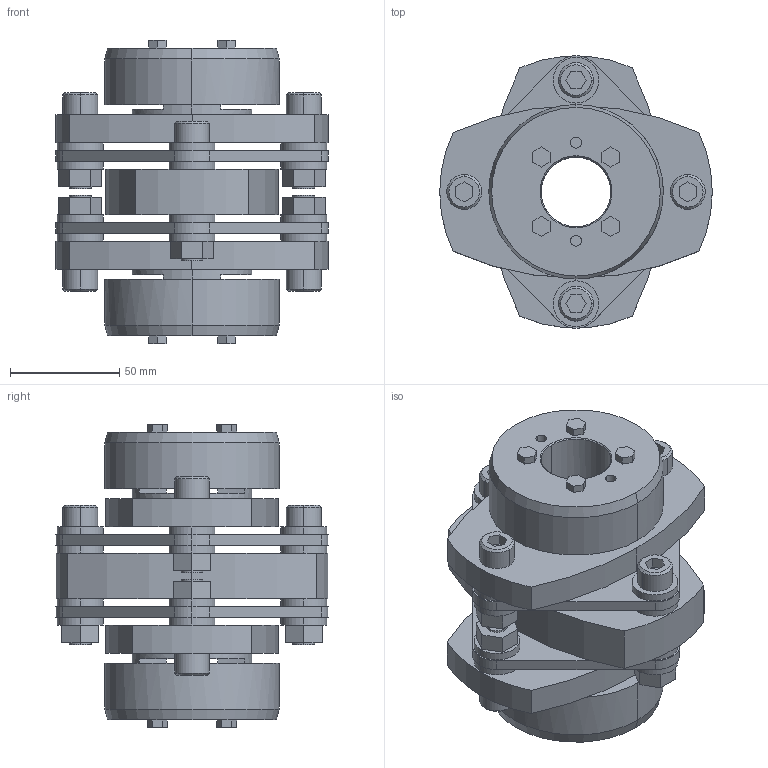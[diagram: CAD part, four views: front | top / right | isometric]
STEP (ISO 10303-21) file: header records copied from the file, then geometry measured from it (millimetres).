
FILE_DESCRIPTION((''),'2;1');
FILE_NAME('LCD-125T7-32×32.stp','2011-09-07T10:07:35',(''),(''),'AutoCAD STEP 2000i','AutoCAD 2000i',', , ');
FILE_SCHEMA(('CONFIG_CONTROL_DESIGN'));
Length unit declared in the file: millimetre
Products named in the file (5): LCD-125T7-32×32; 忣兜1; LC125T7-T032-1; LC125T7-T032; LCD125-ITA
Assembly tree (4 placements, depth 2):
  LCD-125T7-32×32
    忣兜1
    LC125T7-T032-1
    LC125T7-T032
    LCD125-ITA
Bounding box: 125 x 124.91 x 139 mm (x, y, z)
Volume: 671378.7 mm3; surface area: 138048.7 mm2
Topology: 1 solids, 1 shells, 334 faces, 818 edges, 538 vertices
Faces by surface type: plane 190, cylinder 120, cone 24
Entity records: 10071 total; most frequent: DIRECTION 1778, CARTESIAN_POINT 1695, ORIENTED_EDGE 1636, EDGE_CURVE 818, AXIS2_PLACEMENT_3D 621, VERTEX_POINT 538, VECTOR 536, LINE 536
